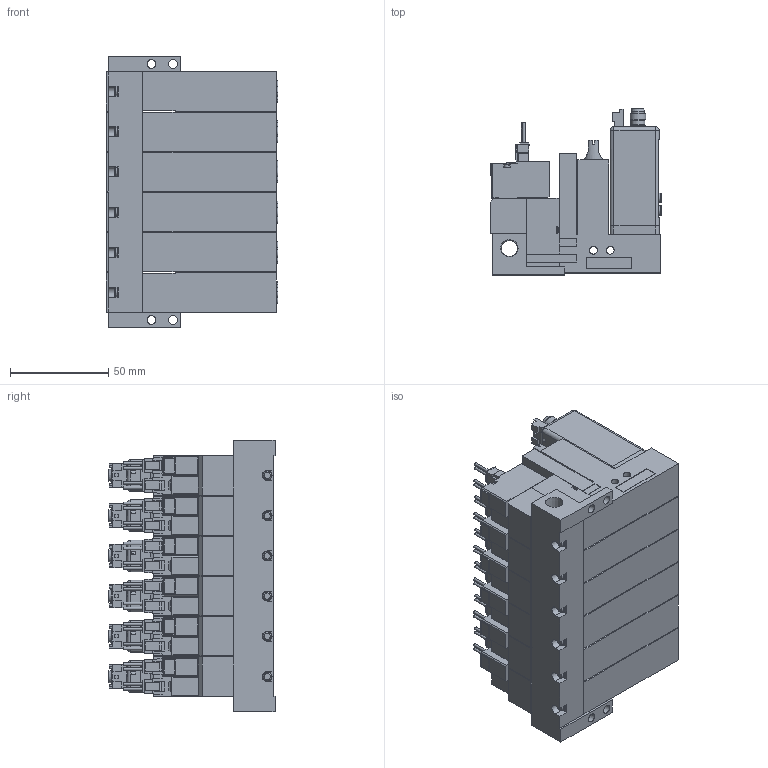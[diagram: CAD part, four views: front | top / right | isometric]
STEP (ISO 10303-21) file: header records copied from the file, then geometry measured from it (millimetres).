
FILE_DESCRIPTION(('STEP AP203'),'1');
FILE_NAME('22_22PL5ALR606.stp','2025-06-12T04:45:34',(' '),(' '),'Spatial InterOp 3D',' ',' ');
FILE_SCHEMA(('CONFIG_CONTROL_DESIGN'));
Length unit declared in the file: millimetre
Products named in the file (10): BMC22M※※※※22_22PL5ALR606; Solenoid valve A; Unit L; Base MR60R; MVS-202
Assembly tree (19 placements, depth 2):
  BMC22M※※※※22_22PL5ALR606
    Solenoid valve A  x6
    Unit L  x6
    Base MR60R
    MVS-202
    MVS-202
    MVS-202
    MVS-202
    MVS-202
    MVS-202
Bounding box: 87.5 x 84.6 x 138.5 mm (x, y, z)
Volume: 583138.7 mm3; surface area: 175896.6 mm2
Topology: 19 solids, 43 shells, 4629 faces, 12053 edges, 7870 vertices
Faces by surface type: plane 3890, cylinder 581, cone 98, torus 36, sphere 24
Full cylindrical faces by diameter (mm): 1 x24, 1.4 x24, 1.5 x6, 2.5 x6, 3 x24, 3.5 x24, 3.6 x6, 4 x12, 4.134 x6, 4.5 x28, 4.8 x18, 5 x12, 5.2 x6, 5.8 x12, 6 x12, 6.5 x18, 6.6 x6, 7 x6, 7.2 x6, 7.9 x6, 8 x12, 8.279 x1
Entity records: 88261 total; most frequent: CARTESIAN_POINT 15878, ORIENTED_EDGE 14442, DIRECTION 14257, EDGE_CURVE 7221, LINE 6089, VECTOR 6089, VERTEX_POINT 4885, AXIS2_PLACEMENT_3D 4084
